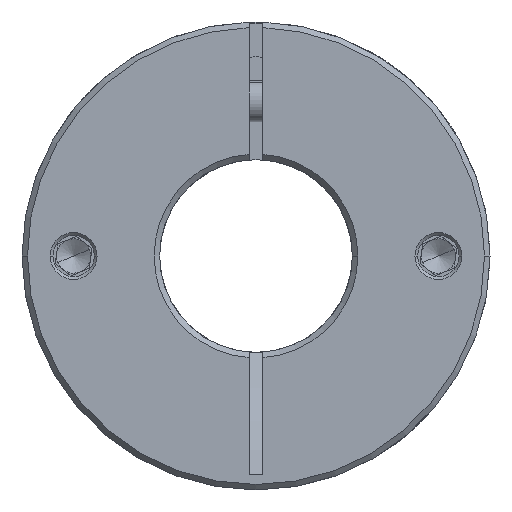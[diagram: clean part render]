
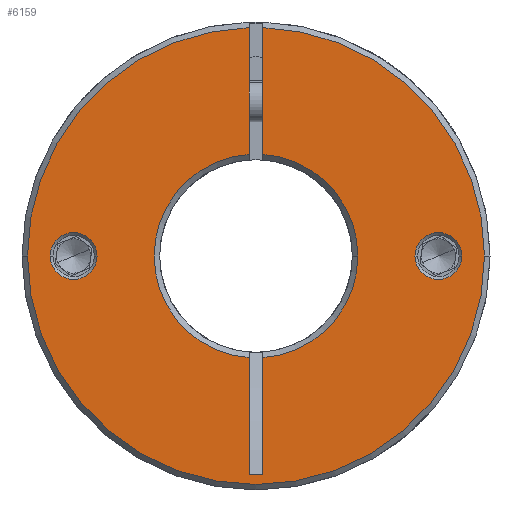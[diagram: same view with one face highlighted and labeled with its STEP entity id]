
A CAD part, front view. The second image highlights one B-rep face of the part: STEP entity #6159.
In plain terms, the highlighted planar face has unit normal (0, -1, 0).
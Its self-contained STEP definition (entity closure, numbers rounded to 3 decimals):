
#27 = EDGE_CURVE ( 'NONE', #5402, #3643, #3963, .T. ) ;
#92 = DIRECTION ( 'NONE',  ( 0., -1., 0. ) ) ;
#165 = CARTESIAN_POINT ( 'NONE',  ( 23.765, -47.045, 68. ) ) ;
#185 = VECTOR ( 'NONE', #2357, 1000. ) ;
#265 = ORIENTED_EDGE ( 'NONE', *, *, #12036, .T. ) ;
#334 = DIRECTION ( 'NONE',  ( 0., 1., 0. ) ) ;
#475 = DIRECTION ( 'NONE',  ( 0., -1., 0. ) ) ;
#505 = LINE ( 'NONE', #11661, #6803 ) ;
#570 = EDGE_LOOP ( 'NONE', ( #9962, #7675, #3820, #11300, #1383, #3889, #11901, #8505, #1319, #6550, #2836 ) ) ;
#585 = EDGE_CURVE ( 'NONE', #5715, #9529, #5374, .T. ) ;
#792 = EDGE_LOOP ( 'NONE', ( #3491, #5108 ) ) ;
#807 = CARTESIAN_POINT ( 'NONE',  ( -3.735, -47.045, 53.234 ) ) ;
#909 = CIRCLE ( 'NONE', #8600, 3.4 ) ;
#937 = CARTESIAN_POINT ( 'NONE',  ( -1.735, -47.045, 82.766 ) ) ;
#1011 = EDGE_CURVE ( 'NONE', #9747, #1876, #10235, .T. ) ;
#1125 = AXIS2_PLACEMENT_3D ( 'NONE', #11633, #7646, #6808 ) ;
#1213 = DIRECTION ( 'NONE',  ( 1., 0., 0. ) ) ;
#1247 = FACE_OUTER_BOUND ( 'NONE', #570, .T. ) ;
#1268 = EDGE_CURVE ( 'NONE', #6348, #10466, #3139, .T. ) ;
#1319 = ORIENTED_EDGE ( 'NONE', *, *, #7600, .T. ) ;
#1383 = ORIENTED_EDGE ( 'NONE', *, *, #11578, .T. ) ;
#1517 = VERTEX_POINT ( 'NONE', #13230 ) ;
#1619 = DIRECTION ( 'NONE',  ( 1., 0., 0. ) ) ;
#1876 = VERTEX_POINT ( 'NONE', #6678 ) ;
#1879 = VERTEX_POINT ( 'NONE', #11940 ) ;
#2006 = LINE ( 'NONE', #7608, #10570 ) ;
#2145 = EDGE_CURVE ( 'NONE', #7973, #9067, #5332, .T. ) ;
#2227 = CARTESIAN_POINT ( 'NONE',  ( -1.735, -47.045, 68. ) ) ;
#2229 = DIRECTION ( 'NONE',  ( 1., 0., 0. ) ) ;
#2317 = DIRECTION ( 'NONE',  ( 0., 1., 0. ) ) ;
#2357 = DIRECTION ( 'NONE',  ( 0., 0., -1. ) ) ;
#2440 = CIRCLE ( 'NONE', #6959, 14.8 ) ;
#2447 = DIRECTION ( 'NONE',  ( 0., 0., -1. ) ) ;
#2600 = CARTESIAN_POINT ( 'NONE',  ( -1.735, -47.045, 68. ) ) ;
#2836 = ORIENTED_EDGE ( 'NONE', *, *, #4079, .T. ) ;
#2871 = DIRECTION ( 'NONE',  ( 0., 1., 0. ) ) ;
#2915 = DIRECTION ( 'NONE',  ( 1., 0., 0. ) ) ;
#3139 = CIRCLE ( 'NONE', #12351, 33.2 ) ;
#3344 = CARTESIAN_POINT ( 'NONE',  ( -2.735, -47.045, 68. ) ) ;
#3387 = DIRECTION ( 'NONE',  ( 0., -1., 0. ) ) ;
#3491 = ORIENTED_EDGE ( 'NONE', *, *, #6627, .T. ) ;
#3558 = DIRECTION ( 'NONE',  ( 1., 0., 0. ) ) ;
#3589 = EDGE_CURVE ( 'NONE', #9747, #4339, #5649, .T. ) ;
#3643 = VERTEX_POINT ( 'NONE', #10362 ) ;
#3820 = ORIENTED_EDGE ( 'NONE', *, *, #12577, .T. ) ;
#3889 = ORIENTED_EDGE ( 'NONE', *, *, #27, .T. ) ;
#3963 = CIRCLE ( 'NONE', #10006, 14.8 ) ;
#4033 = CARTESIAN_POINT ( 'NONE',  ( -3.735, -47.045, 82.766 ) ) ;
#4079 = EDGE_CURVE ( 'NONE', #6596, #4339, #2440, .T. ) ;
#4247 = CARTESIAN_POINT ( 'NONE',  ( -32.635, -47.045, 68. ) ) ;
#4290 = CARTESIAN_POINT ( 'NONE',  ( -2.735, -47.045, 68. ) ) ;
#4339 = VERTEX_POINT ( 'NONE', #4033 ) ;
#4481 = DIRECTION ( 'NONE',  ( 1., 0., 0. ) ) ;
#4498 = CARTESIAN_POINT ( 'NONE',  ( -29.235, -47.045, 68. ) ) ;
#4506 = CARTESIAN_POINT ( 'NONE',  ( 30.465, -47.045, 68. ) ) ;
#4585 = DIRECTION ( 'NONE',  ( 0., 0., -1. ) ) ;
#4677 = CARTESIAN_POINT ( 'NONE',  ( 27.165, -47.045, 68. ) ) ;
#5108 = ORIENTED_EDGE ( 'NONE', *, *, #585, .T. ) ;
#5332 = LINE ( 'NONE', #2227, #185 ) ;
#5374 = CIRCLE ( 'NONE', #8911, 3.4 ) ;
#5402 = VERTEX_POINT ( 'NONE', #937 ) ;
#5443 = VECTOR ( 'NONE', #4585, 1000. ) ;
#5649 = LINE ( 'NONE', #9924, #7114 ) ;
#5715 = VERTEX_POINT ( 'NONE', #4247 ) ;
#5756 = CARTESIAN_POINT ( 'NONE',  ( -1.735, -47.045, 101.185 ) ) ;
#5757 = LINE ( 'NONE', #2600, #5443 ) ;
#5866 = EDGE_LOOP ( 'NONE', ( #265, #13281 ) ) ;
#6143 = CARTESIAN_POINT ( 'NONE',  ( -2.735, -47.045, 68. ) ) ;
#6159 = ADVANCED_FACE ( 'NONE', ( #7205, #11236, #1247 ), #7339, .T. ) ;
#6190 = DIRECTION ( 'NONE',  ( 0., -1., 0. ) ) ;
#6280 = CARTESIAN_POINT ( 'NONE',  ( -2.735, -47.045, 68. ) ) ;
#6348 = VERTEX_POINT ( 'NONE', #4506 ) ;
#6550 = ORIENTED_EDGE ( 'NONE', *, *, #9531, .F. ) ;
#6596 = VERTEX_POINT ( 'NONE', #807 ) ;
#6625 = CARTESIAN_POINT ( 'NONE',  ( -1.735, -47.045, 36.279 ) ) ;
#6627 = EDGE_CURVE ( 'NONE', #9529, #5715, #909, .T. ) ;
#6678 = CARTESIAN_POINT ( 'NONE',  ( -35.935, -47.045, 68. ) ) ;
#6803 = VECTOR ( 'NONE', #2447, 1000. ) ;
#6808 = DIRECTION ( 'NONE',  ( 1., 0., 0. ) ) ;
#6959 = AXIS2_PLACEMENT_3D ( 'NONE', #8519, #2317, #4481 ) ;
#7102 = AXIS2_PLACEMENT_3D ( 'NONE', #6280, #92, #7307 ) ;
#7114 = VECTOR ( 'NONE', #11221, 1000. ) ;
#7205 = FACE_BOUND ( 'NONE', #5866, .T. ) ;
#7291 = DIRECTION ( 'NONE',  ( 1., 0., 0. ) ) ;
#7307 = DIRECTION ( 'NONE',  ( 1., 0., 0. ) ) ;
#7339 = PLANE ( 'NONE',  #8558 ) ;
#7386 = DIRECTION ( 'NONE',  ( 0., 1., 0. ) ) ;
#7600 = EDGE_CURVE ( 'NONE', #9067, #1879, #2006, .T. ) ;
#7608 = CARTESIAN_POINT ( 'NONE',  ( -3.735, -47.045, 36.279 ) ) ;
#7646 = DIRECTION ( 'NONE',  ( 0., 1., 0. ) ) ;
#7652 = CIRCLE ( 'NONE', #10972, 33.2 ) ;
#7670 = CARTESIAN_POINT ( 'NONE',  ( -2.735, -47.045, 68. ) ) ;
#7675 = ORIENTED_EDGE ( 'NONE', *, *, #1011, .T. ) ;
#7925 = CIRCLE ( 'NONE', #13071, 3.4 ) ;
#7968 = DIRECTION ( 'NONE',  ( -1., 0., 0. ) ) ;
#7973 = VERTEX_POINT ( 'NONE', #8240 ) ;
#8240 = CARTESIAN_POINT ( 'NONE',  ( -1.735, -47.045, 53.234 ) ) ;
#8377 = CIRCLE ( 'NONE', #1125, 3.4 ) ;
#8402 = DIRECTION ( 'NONE',  ( 0., 1., 0. ) ) ;
#8505 = ORIENTED_EDGE ( 'NONE', *, *, #2145, .T. ) ;
#8519 = CARTESIAN_POINT ( 'NONE',  ( -2.735, -47.045, 68. ) ) ;
#8558 = AXIS2_PLACEMENT_3D ( 'NONE', #3344, #3387, #7291 ) ;
#8600 = AXIS2_PLACEMENT_3D ( 'NONE', #4498, #334, #11556 ) ;
#8911 = AXIS2_PLACEMENT_3D ( 'NONE', #11820, #11864, #3558 ) ;
#9067 = VERTEX_POINT ( 'NONE', #6625 ) ;
#9529 = VERTEX_POINT ( 'NONE', #12761 ) ;
#9531 = EDGE_CURVE ( 'NONE', #6596, #1879, #505, .T. ) ;
#9622 = DIRECTION ( 'NONE',  ( 1., 0., 0. ) ) ;
#9747 = VERTEX_POINT ( 'NONE', #9845 ) ;
#9845 = CARTESIAN_POINT ( 'NONE',  ( -3.735, -47.045, 101.185 ) ) ;
#9924 = CARTESIAN_POINT ( 'NONE',  ( -3.735, -47.045, 68. ) ) ;
#9962 = ORIENTED_EDGE ( 'NONE', *, *, #3589, .F. ) ;
#10006 = AXIS2_PLACEMENT_3D ( 'NONE', #4290, #8402, #9622 ) ;
#10235 = CIRCLE ( 'NONE', #7102, 33.2 ) ;
#10362 = CARTESIAN_POINT ( 'NONE',  ( 12.065, -47.045, 68. ) ) ;
#10466 = VERTEX_POINT ( 'NONE', #5756 ) ;
#10570 = VECTOR ( 'NONE', #7968, 1000. ) ;
#10876 = EDGE_CURVE ( 'NONE', #1517, #11089, #7925, .T. ) ;
#10972 = AXIS2_PLACEMENT_3D ( 'NONE', #6143, #6190, #2229 ) ;
#11089 = VERTEX_POINT ( 'NONE', #4677 ) ;
#11096 = CARTESIAN_POINT ( 'NONE',  ( -2.735, -47.045, 68. ) ) ;
#11221 = DIRECTION ( 'NONE',  ( 0., 0., -1. ) ) ;
#11236 = FACE_BOUND ( 'NONE', #792, .T. ) ;
#11300 = ORIENTED_EDGE ( 'NONE', *, *, #1268, .T. ) ;
#11556 = DIRECTION ( 'NONE',  ( 1., 0., 0. ) ) ;
#11578 = EDGE_CURVE ( 'NONE', #10466, #5402, #5757, .T. ) ;
#11633 = CARTESIAN_POINT ( 'NONE',  ( 23.765, -47.045, 68. ) ) ;
#11661 = CARTESIAN_POINT ( 'NONE',  ( -3.735, -47.045, 68. ) ) ;
#11740 = CIRCLE ( 'NONE', #12902, 14.8 ) ;
#11820 = CARTESIAN_POINT ( 'NONE',  ( -29.235, -47.045, 68. ) ) ;
#11864 = DIRECTION ( 'NONE',  ( 0., 1., 0. ) ) ;
#11901 = ORIENTED_EDGE ( 'NONE', *, *, #12142, .T. ) ;
#11940 = CARTESIAN_POINT ( 'NONE',  ( -3.735, -47.045, 36.279 ) ) ;
#12036 = EDGE_CURVE ( 'NONE', #11089, #1517, #8377, .T. ) ;
#12142 = EDGE_CURVE ( 'NONE', #3643, #7973, #11740, .T. ) ;
#12351 = AXIS2_PLACEMENT_3D ( 'NONE', #7670, #475, #1619 ) ;
#12577 = EDGE_CURVE ( 'NONE', #1876, #6348, #7652, .T. ) ;
#12761 = CARTESIAN_POINT ( 'NONE',  ( -25.835, -47.045, 68. ) ) ;
#12902 = AXIS2_PLACEMENT_3D ( 'NONE', #11096, #2871, #2915 ) ;
#13071 = AXIS2_PLACEMENT_3D ( 'NONE', #165, #7386, #1213 ) ;
#13230 = CARTESIAN_POINT ( 'NONE',  ( 20.365, -47.045, 68. ) ) ;
#13281 = ORIENTED_EDGE ( 'NONE', *, *, #10876, .T. ) ;
